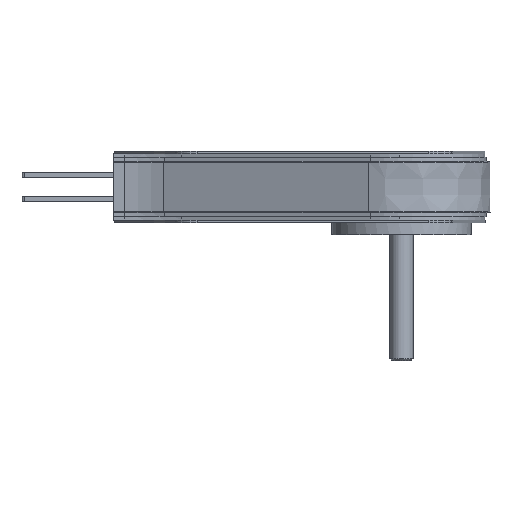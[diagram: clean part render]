
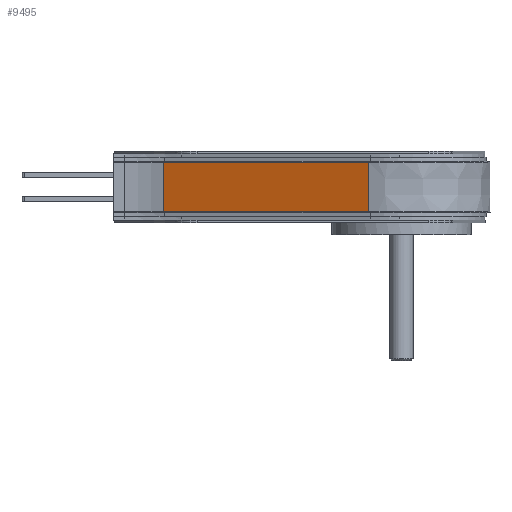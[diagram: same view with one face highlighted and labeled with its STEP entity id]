
A CAD part, front view. The second image highlights one B-rep face of the part: STEP entity #9495.
In plain terms, the highlighted planar face has unit normal (-0.373, -0.928, 0).
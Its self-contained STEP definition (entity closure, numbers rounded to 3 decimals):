
#146 = VERTEX_POINT ( 'NONE', #10807 ) ;
#452 = CARTESIAN_POINT ( 'NONE',  ( -28.41, -70.61, -21.5 ) ) ;
#678 = VECTOR ( 'NONE', #14481, 1000. ) ;
#1280 = ORIENTED_EDGE ( 'NONE', *, *, #18105, .T. ) ;
#2284 = EDGE_CURVE ( 'NONE', #17560, #9635, #5185, .T. ) ;
#2730 = VECTOR ( 'NONE', #19254, 1000. ) ;
#3090 = ORIENTED_EDGE ( 'NONE', *, *, #2284, .T. ) ;
#5185 = LINE ( 'NONE', #19391, #678 ) ;
#5529 = CARTESIAN_POINT ( 'NONE',  ( -205.395, 0.6, 0. ) ) ;
#5830 = DIRECTION ( 'NONE',  ( 0., 0., 1. ) ) ;
#7209 = LINE ( 'NONE', #452, #2730 ) ;
#7477 = CARTESIAN_POINT ( 'NONE',  ( -28.41, -70.61, 21.5 ) ) ;
#7745 = FACE_OUTER_BOUND ( 'NONE', #21334, .T. ) ;
#8895 = LINE ( 'NONE', #5529, #20220 ) ;
#9495 = ADVANCED_FACE ( 'NONE', ( #7745 ), #20991, .T. ) ;
#9522 = EDGE_CURVE ( 'NONE', #146, #20776, #7209, .T. ) ;
#9635 = VERTEX_POINT ( 'NONE', #12621 ) ;
#10643 = CARTESIAN_POINT ( 'NONE',  ( -28.41, -70.61, 0. ) ) ;
#10807 = CARTESIAN_POINT ( 'NONE',  ( -28.41, -70.61, -21.5 ) ) ;
#12621 = CARTESIAN_POINT ( 'NONE',  ( -205.395, 0.6, 21.5 ) ) ;
#13950 = AXIS2_PLACEMENT_3D ( 'NONE', #10643, #19188, #15771 ) ;
#14481 = DIRECTION ( 'NONE',  ( -0.928, 0.373, 0. ) ) ;
#14545 = CARTESIAN_POINT ( 'NONE',  ( -28.41, -70.61, 0. ) ) ;
#15771 = DIRECTION ( 'NONE',  ( 0.928, -0.373, 0. ) ) ;
#17232 = ORIENTED_EDGE ( 'NONE', *, *, #18503, .F. ) ;
#17369 = DIRECTION ( 'NONE',  ( 0., 0., 1. ) ) ;
#17560 = VERTEX_POINT ( 'NONE', #7477 ) ;
#18105 = EDGE_CURVE ( 'NONE', #146, #17560, #19448, .T. ) ;
#18503 = EDGE_CURVE ( 'NONE', #20776, #9635, #8895, .T. ) ;
#18903 = VECTOR ( 'NONE', #5830, 1000. ) ;
#19188 = DIRECTION ( 'NONE',  ( -0.373, -0.928, 0. ) ) ;
#19254 = DIRECTION ( 'NONE',  ( -0.928, 0.373, 0. ) ) ;
#19391 = CARTESIAN_POINT ( 'NONE',  ( -28.41, -70.61, 21.5 ) ) ;
#19448 = LINE ( 'NONE', #14545, #18903 ) ;
#20220 = VECTOR ( 'NONE', #17369, 1000. ) ;
#20404 = ORIENTED_EDGE ( 'NONE', *, *, #9522, .F. ) ;
#20665 = CARTESIAN_POINT ( 'NONE',  ( -205.395, 0.6, -21.5 ) ) ;
#20776 = VERTEX_POINT ( 'NONE', #20665 ) ;
#20991 = PLANE ( 'NONE',  #13950 ) ;
#21334 = EDGE_LOOP ( 'NONE', ( #1280, #3090, #17232, #20404 ) ) ;
